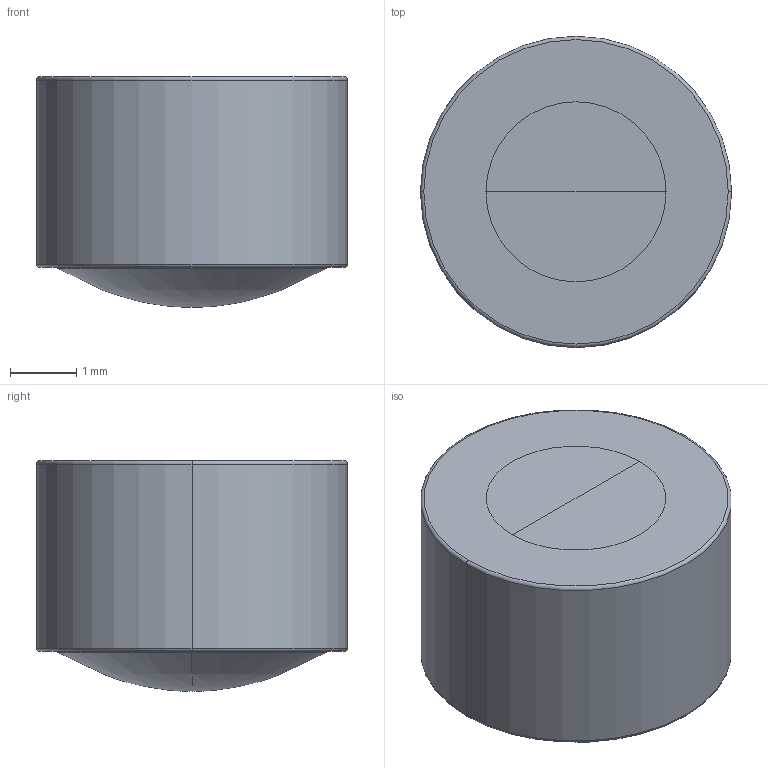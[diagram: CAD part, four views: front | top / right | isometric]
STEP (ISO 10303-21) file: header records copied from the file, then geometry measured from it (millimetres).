
FILE_DESCRIPTION((''),'2;1');
FILE_NAME('354171','2025-07-25T21:24:32',('admin'),('LIGHTPATH'),'CREO PARAMETRIC BY PTC INC, 2024063','CREO PARAMETRIC BY PTC INC, 2024063','');
FILE_SCHEMA(('CONFIG_CONTROL_DESIGN'));
Length unit declared in the file: millimetre
Products named in the file (1): 354171
Bounding box: 4.7 x 4.7 x 3.48 mm (x, y, z)
Volume: 54 mm3; surface area: 77.7 mm2
Topology: 1 solids, 1 shells, 14 faces, 30 edges, 16 vertices
Faces by surface type: torus 6, revolution 4, plane 2, cylinder 2
Entity records: 669 total; most frequent: CARTESIAN_POINT 333, DIRECTION 68, ORIENTED_EDGE 52, AXIS2_PLACEMENT_3D 30, EDGE_CURVE 26, CIRCLE 20, VERTEX_POINT 16, EDGE_LOOP 16
